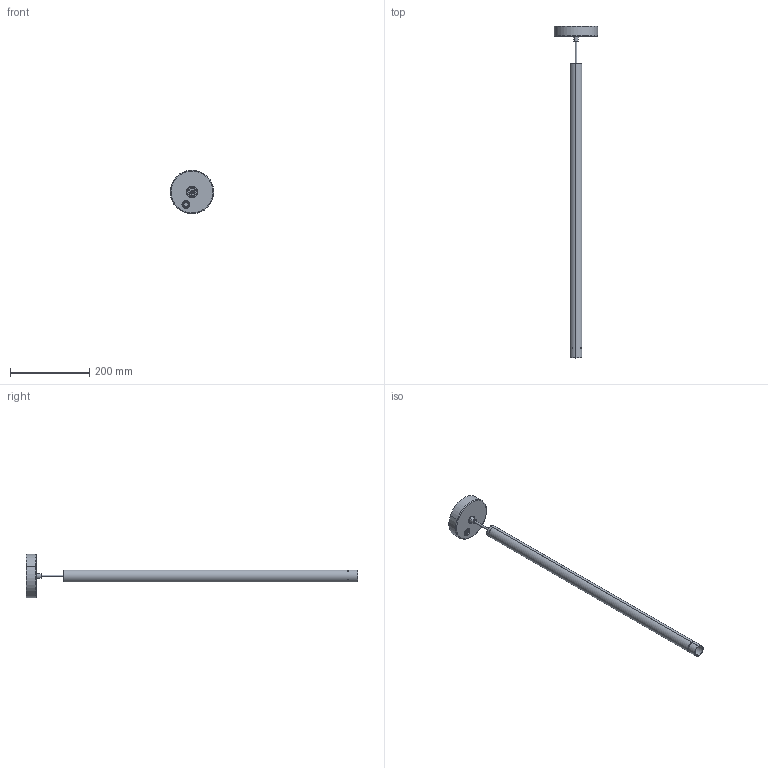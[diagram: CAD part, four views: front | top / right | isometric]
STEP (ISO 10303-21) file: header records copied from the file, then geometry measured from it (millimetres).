
FILE_DESCRIPTION (( 'STEP AP214' ), '1' );
FILE_NAME ('3D_CANNA_NUDA_METAL_PENDANT.STEP', '2018-02-28T10:35:29', ( 'Utente' ), ( '' ), 'SwSTEP 2.0', 'SolidWorks 2016', '' );
FILE_SCHEMA (( 'AUTOMOTIVE_DESIGN' ));
Length unit declared in the file: millimetre
Products named in the file (7): 3D_CANNA_NUDA_METAL_PENDANT; 010CNM700400_Dischetto chiusura superiore-1^3D_CANNA_NUDA_METAL_PENDANT; 010CNM700600_Tubo L.745-1^3D_CANNA_NUDA_METAL_PENDANT; 052COM000810_ROSONE PLAST.FORATO H26 NERO-1^3D_CANNA_NUDA_METAL_PENDANT; 093COM000062 - PIASTRA LED 6.25 919LM 3000K 350MA-1^3D_CANNA_NUDA_METAL_PENDANT; 010CNM000310_Piastra a soffitto inox lucido-1^3D_CANNA_NUDA_METAL_PENDANT; Group3^3D_CANNA_NUDA_METAL_PENDANT
Assembly tree (6 placements, depth 2):
  3D_CANNA_NUDA_METAL_PENDANT
    Group3^3D_CANNA_NUDA_METAL_PENDANT
    010CNM000310_Piastra a soffitto inox lucido-1^3D_CANNA_NUDA_METAL_PENDANT
    093COM000062 - PIASTRA LED 6.25 919LM 3000K 350MA-1^3D_CANNA_NUDA_METAL_PENDANT
    052COM000810_ROSONE PLAST.FORATO H26 NERO-1^3D_CANNA_NUDA_METAL_PENDANT
    010CNM700600_Tubo L.745-1^3D_CANNA_NUDA_METAL_PENDANT
    010CNM700400_Dischetto chiusura superiore-1^3D_CANNA_NUDA_METAL_PENDANT
Bounding box: 109.74 x 840 x 109.74 mm (x, y, z)
Volume: 346442.5 mm3; surface area: 195988.1 mm2
Topology: 6 solids, 6 shells, 149 faces, 334 edges, 214 vertices
Faces by surface type: plane 83, cylinder 34, cone 20, torus 12
Entity records: 4800 total; most frequent: CARTESIAN_POINT 784, DIRECTION 756, ORIENTED_EDGE 668, EDGE_CURVE 334, AXIS2_PLACEMENT_3D 272, VERTEX_POINT 214, VECTOR 212, LINE 212
